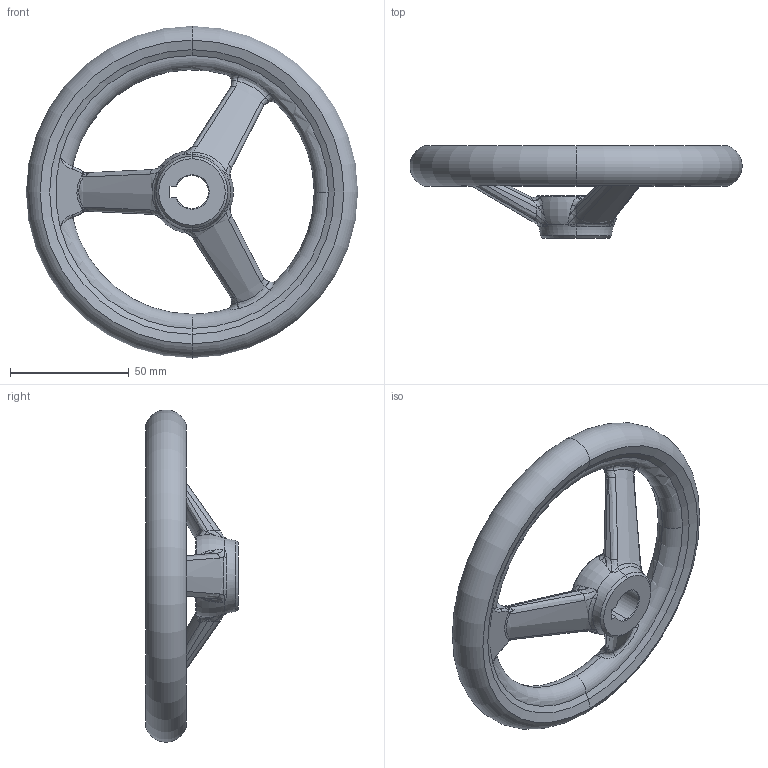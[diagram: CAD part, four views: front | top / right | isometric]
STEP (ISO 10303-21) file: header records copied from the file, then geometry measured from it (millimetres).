
FILE_DESCRIPTION (( 'STEP AP203' ), '1' );
FILE_NAME ('din950_a3_140x14.step', '2015-02-02T09:39:02', ( 'Magnus' ), ( 'Microsoft' ), 'SwSTEP 2.0', 'SolidWorks 2014', '' );
FILE_SCHEMA (( 'CONFIG_CONTROL_DESIGN' ));
Length unit declared in the file: millimetre
Products named in the file (1): din950_a3_140x14
Bounding box: 139.94 x 39 x 139.94 mm (x, y, z)
Volume: 115857.2 mm3; surface area: 29667.1 mm2
Topology: 1 solids, 1 shells, 201 faces, 498 edges, 270 vertices
Faces by surface type: bspline 140, torus 22, cone 18, plane 13, cylinder 8
Entity records: 10772 total; most frequent: CARTESIAN_POINT 7090, ORIENTED_EDGE 950, DIRECTION 496, EDGE_CURVE 475, VERTEX_POINT 270, B_SPLINE_CURVE_WITH_KNOTS 269, AXIS2_PLACEMENT_3D 232, EDGE_LOOP 203
